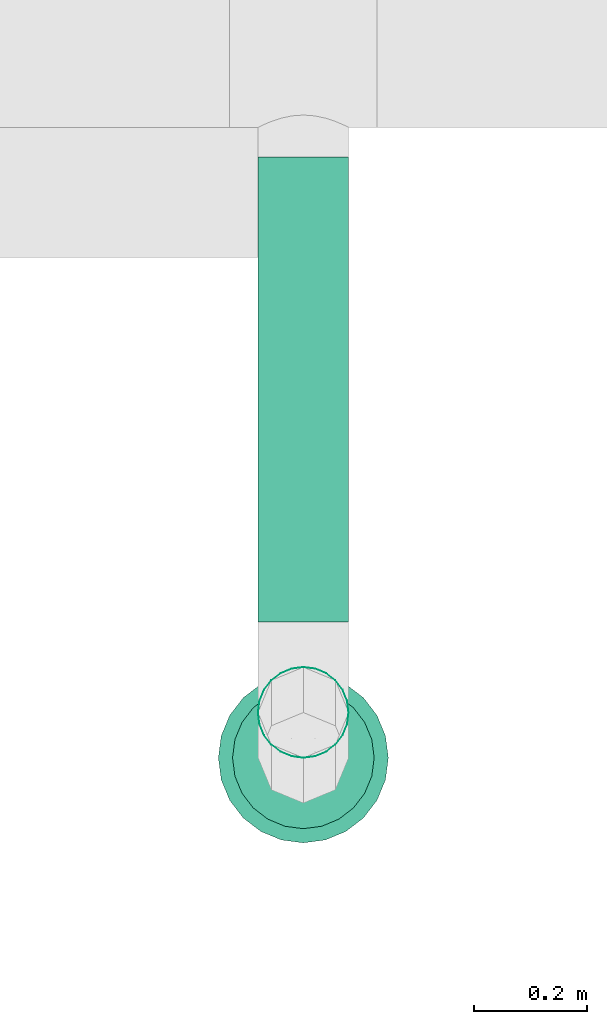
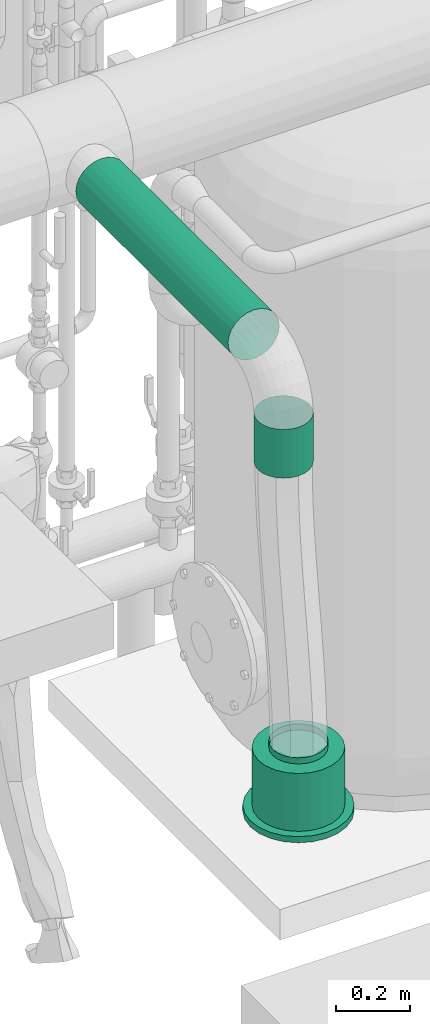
# One storey, part 75 of 374: 2 flow segments, 1 flow terminal.
"""IFC2X3 building model written with IfcOpenShell, lengths in metres."""

from ifc_helpers import new_model, si_unit, direction, origin, place, context, subcontext, project, spatial, open_shell, surface_model, source, transform, mapped, element, save


model = new_model("IFC2X3")

# Units and contexts
model_context = context("Model", 3, precision=1e-05, world=origin(), true_north=direction((-0.4480736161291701, 0.8939966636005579)))
body_context = subcontext(model_context, "Body", "Model", "MODEL_VIEW")
ifc_project = project(units=[si_unit("LENGTHUNIT", "METRE"), si_unit("AREAUNIT", "SQUARE_METRE"), si_unit("VOLUMEUNIT", "CUBIC_METRE"), si_unit("PLANEANGLEUNIT", "RADIAN"), si_unit("THERMODYNAMICTEMPERATUREUNIT", "KELVIN"), si_unit("MASSUNIT", "GRAM", prefix="KILO"), si_unit("TIMEUNIT", "SECOND")], contexts=[model_context])

# Site, building, storey
site_placement = place(None, origin())
site = spatial("IfcSite", under=ifc_project, at=site_placement, Name="Site 1", CompositionType="ELEMENT")
building_placement = place(site_placement, origin())
building = spatial("IfcBuilding", under=site, at=building_placement, Name="Undefined", CompositionType="ELEMENT")
storey_placement = place(building_placement, origin())
storey = spatial("IfcBuildingStorey", under=building, at=storey_placement, Name="Rez de chauss\x8ee", CompositionType="ELEMENT", Elevation=0.0)

# Flow terminal
shared_shape_1 = source(origin(), body_context, "Body", "SurfaceModel", [
    surface_model("IfcFaceBasedSurfaceModel", [(0.0, 0.0, 0.0), (0.03915785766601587, 0.0, 0.0), (0.03915785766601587, 0.020000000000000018, 0.0), (3.552713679e-15, 0.020000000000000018, 0.0), (0.07698144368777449, 0.0, -0.010134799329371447), (0.07698144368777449, 0.020000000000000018, -0.010134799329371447), (0.11089314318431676, 0.0, -0.02971372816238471), (0.11089314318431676, 0.020000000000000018, -0.02971372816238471), (0.13858192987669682, 0.0, -0.05740251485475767), (0.13858192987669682, 0.020000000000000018, -0.05740251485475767), (0.15816085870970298, 0.0, -0.09131421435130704), (0.15816085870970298, 0.020000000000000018, -0.09131421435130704), (0.16829565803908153, 0.0, -0.12913780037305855), (0.16829565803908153, 0.020000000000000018, -0.12913780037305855), (0.16829565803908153, 0.0, -0.16829565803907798), (0.16829565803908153, 0.020000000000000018, -0.16829565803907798), (0.15816085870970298, 0.0, -0.20611924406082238), (0.15816085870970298, 0.020000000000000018, -0.20611924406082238), (0.13858192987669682, 0.0, -0.24003094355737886), (0.13858192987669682, 0.020000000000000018, -0.24003094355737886), (0.11089314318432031, 0.0, -0.2677197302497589), (0.11089314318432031, 0.020000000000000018, -0.2677197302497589), (0.07698144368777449, 0.0, -0.2872986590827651), (0.07698144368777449, 0.020000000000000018, -0.2872986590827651), (0.039157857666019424, 0.0, -0.29743345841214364), (0.039157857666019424, 0.020000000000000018, -0.29743345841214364), (3.552713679e-15, 0.0, -0.29743345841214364), (3.552713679e-15, 0.020000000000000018, -0.29743345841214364), (-0.03782358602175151, 0.0, -0.2872986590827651), (-0.03782358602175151, 0.020000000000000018, -0.2872986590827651), (-0.07173528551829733, 0.0, -0.2677197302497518), (-0.07173528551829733, 0.020000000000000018, -0.2677197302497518), (-0.0994240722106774, 0.0, -0.24003094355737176), (-0.0994240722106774, 0.020000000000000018, -0.24003094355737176), (-0.11900300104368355, 0.0, -0.2061192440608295), (-0.11900300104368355, 0.020000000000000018, -0.2061192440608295), (-0.1291378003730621, 0.0, -0.16829565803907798), (-0.1291378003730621, 0.020000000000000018, -0.16829565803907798), (-0.1291378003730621, 0.0, -0.12913780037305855), (-0.1291378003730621, 0.020000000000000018, -0.12913780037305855), (-0.11900300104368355, 0.0, -0.09131421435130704), (-0.11900300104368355, 0.020000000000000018, -0.09131421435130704), (-0.0994240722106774, 0.0, -0.05740251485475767), (-0.0994240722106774, 0.020000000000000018, -0.05740251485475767), (-0.07173528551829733, 0.0, -0.029713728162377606), (-0.07173528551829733, 0.020000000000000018, -0.029713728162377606), (-0.03782358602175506, 0.0, -0.010134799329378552), (-0.03782358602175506, 0.020000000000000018, -0.010134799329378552), (0.019578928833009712, 0.0, -0.14871672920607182), (0.019578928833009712, 0.020000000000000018, -0.14871672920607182), (0.003263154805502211, 0.020000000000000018, -0.02478612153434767), (0.035894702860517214, 0.020000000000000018, -0.02478612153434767), (0.035894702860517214, 0.20999999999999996, -0.02478612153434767), (0.003263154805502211, 0.20999999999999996, -0.02478612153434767), (0.06741435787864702, 0.020000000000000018, -0.033231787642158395), (0.06741435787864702, 0.20999999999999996, -0.033231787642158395), (0.0956741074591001, 0.020000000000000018, -0.04954756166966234), (0.0956741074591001, 0.20999999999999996, -0.04954756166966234), (0.11874809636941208, 0.020000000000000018, -0.07262155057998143), (0.11874809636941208, 0.20999999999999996, -0.07262155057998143), (0.13506387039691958, 0.020000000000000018, -0.10088130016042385), (0.13506387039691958, 0.20999999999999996, -0.10088130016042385), (0.1435095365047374, 0.020000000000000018, -0.13240095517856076), (0.1435095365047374, 0.20999999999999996, -0.13240095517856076), (0.1435095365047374, 0.020000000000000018, -0.16503250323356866), (0.1435095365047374, 0.20999999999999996, -0.16503250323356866), (0.13506387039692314, 0.020000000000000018, -0.19655215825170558), (0.13506387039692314, 0.20999999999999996, -0.19655215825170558), (0.11874809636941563, 0.020000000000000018, -0.2248119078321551), (0.11874809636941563, 0.20999999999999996, -0.2248119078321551), (0.09567410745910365, 0.020000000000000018, -0.24788589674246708), (0.09567410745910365, 0.20999999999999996, -0.24788589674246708), (0.06741435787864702, 0.020000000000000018, -0.26420167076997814), (0.06741435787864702, 0.20999999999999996, -0.26420167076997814), (0.035894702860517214, 0.020000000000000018, -0.27264733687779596), (0.035894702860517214, 0.20999999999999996, -0.27264733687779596), (0.0032631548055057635, 0.020000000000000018, -0.27264733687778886), (0.0032631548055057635, 0.20999999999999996, -0.27264733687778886), (-0.028256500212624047, 0.020000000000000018, -0.26420167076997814), (-0.028256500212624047, 0.20999999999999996, -0.26420167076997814), (-0.05651624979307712, 0.020000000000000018, -0.2478858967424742), (-0.05651624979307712, 0.20999999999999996, -0.2478858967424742), (-0.07959023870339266, 0.020000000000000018, -0.2248119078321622), (-0.07959023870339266, 0.20999999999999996, -0.2248119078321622), (-0.09590601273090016, 0.020000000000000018, -0.19655215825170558), (-0.09590601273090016, 0.20999999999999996, -0.19655215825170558), (-0.10435167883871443, 0.020000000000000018, -0.16503250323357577), (-0.10435167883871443, 0.20999999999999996, -0.16503250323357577), (-0.10435167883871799, 0.020000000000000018, -0.13240095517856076), (-0.10435167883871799, 0.20999999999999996, -0.13240095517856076), (-0.09590601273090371, 0.020000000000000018, -0.10088130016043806), (-0.09590601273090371, 0.20999999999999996, -0.10088130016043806), (-0.07959023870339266, 0.020000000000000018, -0.07262155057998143), (-0.07959023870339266, 0.20999999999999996, -0.07262155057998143), (-0.056516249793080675, 0.020000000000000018, -0.04954756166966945), (-0.056516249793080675, 0.20999999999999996, -0.04954756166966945), (-0.028256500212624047, 0.020000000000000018, -0.033231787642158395), (-0.028256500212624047, 0.20999999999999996, -0.033231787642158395), (0.019578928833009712, 0.20999999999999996, -0.14871672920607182), (0.009136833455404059, 0.20999999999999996, -0.06940114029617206), (0.030021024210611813, 0.20999999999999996, -0.06940114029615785), (0.030021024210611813, 0.22999999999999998, -0.06940114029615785), (0.009136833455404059, 0.22999999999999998, -0.06940114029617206), (0.05019360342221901, 0.20999999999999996, -0.07480636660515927), (0.05019360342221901, 0.22999999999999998, -0.07480636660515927), (0.06827984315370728, 0.20999999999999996, -0.08524846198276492), (0.06827984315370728, 0.22999999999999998, -0.08524846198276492), (0.0830471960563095, 0.20999999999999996, -0.10001581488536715), (0.0830471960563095, 0.22999999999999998, -0.10001581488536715), (0.0934892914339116, 0.20999999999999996, -0.11810205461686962), (0.0934892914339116, 0.22999999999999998, -0.11810205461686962), (0.09889451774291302, 0.20999999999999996, -0.13827463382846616), (0.09889451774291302, 0.22999999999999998, -0.13827463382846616), (0.09889451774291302, 0.20999999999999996, -0.15915882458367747), (0.09889451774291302, 0.22999999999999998, -0.15915882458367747), (0.09348929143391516, 0.20999999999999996, -0.179331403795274), (0.09348929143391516, 0.22999999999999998, -0.179331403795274), (0.0830471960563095, 0.20999999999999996, -0.19741764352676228), (0.0830471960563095, 0.22999999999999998, -0.19741764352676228), (0.06827984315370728, 0.20999999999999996, -0.2121849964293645), (0.06827984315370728, 0.22999999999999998, -0.2121849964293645), (0.05019360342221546, 0.20999999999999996, -0.22262709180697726), (0.05019360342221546, 0.22999999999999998, -0.22262709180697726), (0.030021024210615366, 0.20999999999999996, -0.22803231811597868), (0.030021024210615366, 0.22999999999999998, -0.22803231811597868), (0.009136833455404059, 0.20999999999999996, -0.22803231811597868), (0.009136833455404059, 0.22999999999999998, -0.22803231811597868), (-0.011035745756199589, 0.20999999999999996, -0.22262709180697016), (-0.011035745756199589, 0.22999999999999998, -0.22262709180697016), (-0.0291219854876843, 0.20999999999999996, -0.2121849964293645), (-0.0291219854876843, 0.22999999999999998, -0.2121849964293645), (-0.043889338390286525, 0.20999999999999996, -0.19741764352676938), (-0.043889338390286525, 0.22999999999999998, -0.19741764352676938), (-0.05433143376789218, 0.20999999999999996, -0.17933140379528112), (-0.05433143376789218, 0.22999999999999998, -0.17933140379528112), (-0.05973666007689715, 0.20999999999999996, -0.15915882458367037), (-0.05973666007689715, 0.22999999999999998, -0.15915882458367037), (-0.0597366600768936, 0.20999999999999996, -0.13827463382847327), (-0.0597366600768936, 0.22999999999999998, -0.13827463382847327), (-0.05433143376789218, 0.20999999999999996, -0.11810205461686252), (-0.05433143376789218, 0.22999999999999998, -0.11810205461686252), (-0.043889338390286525, 0.20999999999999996, -0.10001581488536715), (-0.043889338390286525, 0.22999999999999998, -0.10001581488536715), (-0.02912198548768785, 0.20999999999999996, -0.08524846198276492), (-0.02912198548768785, 0.22999999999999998, -0.08524846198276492), (-0.011035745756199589, 0.20999999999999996, -0.07480636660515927), (-0.011035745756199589, 0.22999999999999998, -0.07480636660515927)], [open_shell([[[0, 1, 2, 3]], [[1, 4, 5, 2]], [[4, 6, 7, 5]], [[6, 8, 9, 7]], [[8, 10, 11, 9]], [[10, 12, 13, 11]], [[12, 14, 15, 13]], [[14, 16, 17, 15]], [[16, 18, 19, 17]], [[18, 20, 21, 19]], [[20, 22, 23, 21]], [[22, 24, 25, 23]], [[24, 26, 27, 25]], [[26, 28, 29, 27]], [[28, 30, 31, 29]], [[30, 32, 33, 31]], [[32, 34, 35, 33]], [[34, 36, 37, 35]], [[36, 38, 39, 37]], [[38, 40, 41, 39]], [[40, 42, 43, 41]], [[42, 44, 45, 43]], [[44, 46, 47, 45]], [[46, 0, 3, 47]], [[48, 1, 0]], [[48, 4, 1]], [[48, 6, 4]], [[48, 8, 6]], [[48, 10, 8]], [[48, 12, 10]], [[48, 14, 12]], [[48, 16, 14]], [[48, 18, 16]], [[48, 20, 18]], [[48, 22, 20]], [[48, 24, 22]], [[48, 26, 24]], [[48, 28, 26]], [[48, 30, 28]], [[48, 32, 30]], [[48, 34, 32]], [[48, 36, 34]], [[48, 38, 36]], [[48, 40, 38]], [[48, 42, 40]], [[48, 44, 42]], [[48, 46, 44]], [[48, 0, 46]], [[49, 47, 3]], [[49, 45, 47]], [[49, 43, 45]], [[49, 41, 43]], [[49, 39, 41]], [[49, 37, 39]], [[49, 35, 37]], [[49, 33, 35]], [[49, 31, 33]], [[49, 29, 31]], [[49, 27, 29]], [[49, 25, 27]], [[49, 23, 25]], [[49, 21, 23]], [[49, 19, 21]], [[49, 17, 19]], [[49, 15, 17]], [[49, 13, 15]], [[49, 11, 13]], [[49, 9, 11]], [[49, 7, 9]], [[49, 5, 7]], [[49, 2, 5]], [[49, 3, 2]], [[50, 51, 52, 53]], [[51, 54, 55, 52]], [[54, 56, 57, 55]], [[56, 58, 59, 57]], [[58, 60, 61, 59]], [[60, 62, 63, 61]], [[62, 64, 65, 63]], [[64, 66, 67, 65]], [[66, 68, 69, 67]], [[68, 70, 71, 69]], [[70, 72, 73, 71]], [[72, 74, 75, 73]], [[74, 76, 77, 75]], [[76, 78, 79, 77]], [[78, 80, 81, 79]], [[80, 82, 83, 81]], [[82, 84, 85, 83]], [[84, 86, 87, 85]], [[86, 88, 89, 87]], [[88, 90, 91, 89]], [[90, 92, 93, 91]], [[92, 94, 95, 93]], [[94, 96, 97, 95]], [[96, 50, 53, 97]], [[49, 51, 50]], [[49, 54, 51]], [[49, 56, 54]], [[49, 58, 56]], [[49, 60, 58]], [[49, 62, 60]], [[49, 64, 62]], [[49, 66, 64]], [[49, 68, 66]], [[49, 70, 68]], [[49, 72, 70]], [[49, 74, 72]], [[49, 76, 74]], [[49, 78, 76]], [[49, 80, 78]], [[49, 82, 80]], [[49, 84, 82]], [[49, 86, 84]], [[49, 88, 86]], [[49, 90, 88]], [[49, 92, 90]], [[49, 94, 92]], [[49, 96, 94]], [[49, 50, 96]], [[98, 97, 53]], [[98, 95, 97]], [[98, 93, 95]], [[98, 91, 93]], [[98, 89, 91]], [[98, 87, 89]], [[98, 85, 87]], [[98, 83, 85]], [[98, 81, 83]], [[98, 79, 81]], [[98, 77, 79]], [[98, 75, 77]], [[98, 73, 75]], [[98, 71, 73]], [[98, 69, 71]], [[98, 67, 69]], [[98, 65, 67]], [[98, 63, 65]], [[98, 61, 63]], [[98, 59, 61]], [[98, 57, 59]], [[98, 55, 57]], [[98, 52, 55]], [[98, 53, 52]], [[99, 100, 101, 102]], [[100, 103, 104, 101]], [[103, 105, 106, 104]], [[105, 107, 108, 106]], [[107, 109, 110, 108]], [[109, 111, 112, 110]], [[111, 113, 114, 112]], [[113, 115, 116, 114]], [[115, 117, 118, 116]], [[117, 119, 120, 118]], [[119, 121, 122, 120]], [[121, 123, 124, 122]], [[123, 125, 126, 124]], [[125, 127, 128, 126]], [[127, 129, 130, 128]], [[129, 131, 132, 130]], [[131, 133, 134, 132]], [[133, 135, 136, 134]], [[135, 137, 138, 136]], [[137, 139, 140, 138]], [[139, 141, 142, 140]], [[141, 143, 144, 142]], [[143, 145, 146, 144]], [[145, 99, 102, 146]]])]),
])
flow_terminal_placement = place(storey_placement, origin())
element("IfcFlowTerminal", 1, at=flow_terminal_placement, inside=storey, Name="Air diffuseur - bouche", ObjectType="Air diffuseur - bouche", context=body_context, shape_type="MappedRepresentation", body=[
    mapped(shared_shape_1, transform((52.29000370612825, 7.104998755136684, 2.38), x_axis=(-0.9914448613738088, -0.13052619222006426, 0.0), y_axis=(0.0, 0.0, 1.0), z_axis=(-0.13052619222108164, 0.9914448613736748, 0.0))),
])

# Flow segments
shared_shape_2 = source(origin(), body_context, "Body", "SurfaceModel", [
    surface_model("IfcFaceBasedSurfaceModel", [(0.0, 0.020884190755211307, 0.0), (0.0, 0.0, 0.0), (0.16000000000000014, 0.0, -4.4408921e-16), (0.16000000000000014, 0.0208841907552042, -4.4408921e-16), (0.0, -0.020172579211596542, -0.005405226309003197), (0.16000000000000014, -0.020172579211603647, -0.005405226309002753), (0.0, -0.03825881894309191, -0.015847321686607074), (0.16000000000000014, -0.03825881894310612, -0.015847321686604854), (0.0, -0.05302617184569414, -0.0306146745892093), (0.16000000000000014, -0.05302617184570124, -0.03061467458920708), (0.0, -0.06346826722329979, -0.04870091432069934), (0.16000000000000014, -0.0634682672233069, -0.04870091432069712), (0.0, -0.06887349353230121, -0.06887349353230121), (0.16000000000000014, -0.06887349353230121, -0.06887349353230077), (0.0, -0.06887349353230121, -0.08975768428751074), (0.16000000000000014, -0.06887349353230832, -0.08975768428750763), (0.0, -0.06346826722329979, -0.10993026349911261), (0.16000000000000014, -0.0634682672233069, -0.10993026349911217), (0.0, -0.05302617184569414, -0.12801650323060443), (0.16000000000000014, -0.05302617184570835, -0.1280165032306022), (0.0, -0.038258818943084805, -0.14278385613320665), (0.16000000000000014, -0.03825881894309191, -0.14278385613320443), (0.0, -0.020172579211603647, -0.15322595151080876), (0.16000000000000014, -0.020172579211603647, -0.1532259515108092), (0.0, 7.105427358e-15, -0.15863117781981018), (0.16000000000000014, -7.105427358e-15, -0.15863117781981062), (0.0, 0.020884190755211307, -0.15863117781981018), (0.16000000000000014, 0.0208841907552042, -0.15863117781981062), (0.0, 0.04105676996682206, -0.15322595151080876), (0.16000000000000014, 0.04105676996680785, -0.1532259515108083), (0.0, 0.05914300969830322, -0.1427838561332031), (0.16000000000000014, 0.05914300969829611, -0.14278385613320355), (0.0, 0.07391036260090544, -0.12801650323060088), (0.16000000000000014, 0.07391036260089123, -0.1280165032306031), (0.0, 0.0843524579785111, -0.10993026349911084), (0.16000000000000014, 0.08435245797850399, -0.10993026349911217), (0.0, 0.08975768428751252, -0.08975768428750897), (0.16000000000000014, 0.08975768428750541, -0.08975768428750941), (0.0, 0.08975768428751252, -0.06887349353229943), (0.16000000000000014, 0.08975768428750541, -0.06887349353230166), (0.0, 0.0843524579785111, -0.048700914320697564), (0.16000000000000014, 0.08435245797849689, -0.04870091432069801), (0.0, 0.07391036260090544, -0.030614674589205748), (0.16000000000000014, 0.07391036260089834, -0.03061467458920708), (0.0, 0.05914300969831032, -0.015847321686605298), (0.16000000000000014, 0.05914300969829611, -0.01584732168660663), (0.0, 0.04105676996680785, -0.005405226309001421), (0.16000000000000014, 0.04105676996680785, -0.005405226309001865)], [open_shell([[[0, 1, 2, 3]], [[1, 4, 5, 2]], [[4, 6, 7, 5]], [[6, 8, 9, 7]], [[8, 10, 11, 9]], [[10, 12, 13, 11]], [[12, 14, 15, 13]], [[14, 16, 17, 15]], [[16, 18, 19, 17]], [[18, 20, 21, 19]], [[20, 22, 23, 21]], [[22, 24, 25, 23]], [[24, 26, 27, 25]], [[26, 28, 29, 27]], [[28, 30, 31, 29]], [[30, 32, 33, 31]], [[32, 34, 35, 33]], [[34, 36, 37, 35]], [[36, 38, 39, 37]], [[38, 40, 41, 39]], [[40, 42, 43, 41]], [[42, 44, 45, 43]], [[44, 46, 47, 45]], [[46, 0, 3, 47]]])]),
])
flow_segment_1_placement = place(storey_placement, origin())
element("IfcFlowSegment", 2, at=flow_segment_1_placement, inside=storey, Name="Tube", ObjectType="Tube", context=body_context, shape_type="MappedRepresentation", body=[
    mapped(shared_shape_2, transform((52.269298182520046, 7.112272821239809, 3.4800000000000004), x_axis=(0.0, 0.0, 1.0), y_axis=(0.9914448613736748, 0.13052619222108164, 0.0), z_axis=(-0.13052619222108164, 0.9914448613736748, 0.0))),
])
shared_shape_3 = source(origin(), body_context, "Body", "SurfaceModel", [
    surface_model("IfcFaceBasedSurfaceModel", [(0.0, 0.020884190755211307, 0.0), (0.0, 0.0, 0.0), (0.8200010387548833, 0.0, 4.4408921e-16), (0.8200010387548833, 0.020884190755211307, -4.4408921e-16), (0.0, -0.020172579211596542, -0.005405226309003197), (0.8200010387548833, -0.020172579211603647, -0.005405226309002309), (0.0, -0.03825881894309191, -0.015847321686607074), (0.8200010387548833, -0.038258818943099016, -0.01584732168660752), (0.0, -0.05302617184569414, -0.0306146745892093), (0.8200010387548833, -0.05302617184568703, -0.0306146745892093), (0.0, -0.06346826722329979, -0.04870091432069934), (0.8200010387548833, -0.06346826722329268, -0.04870091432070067), (0.0, -0.06887349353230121, -0.06887349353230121), (0.8200010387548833, -0.06887349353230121, -0.06887349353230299), (0.0, -0.06887349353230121, -0.08975768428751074), (0.8200010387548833, -0.0688734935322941, -0.08975768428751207), (0.0, -0.06346826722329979, -0.10993026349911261), (0.8200010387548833, -0.06346826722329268, -0.10993026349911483), (0.0, -0.05302617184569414, -0.12801650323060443), (0.8200010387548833, -0.05302617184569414, -0.12801650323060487), (0.0, -0.038258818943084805, -0.14278385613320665), (0.8200010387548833, -0.038258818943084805, -0.14278385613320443), (0.0, -0.020172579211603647, -0.15322595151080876), (0.8200010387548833, -0.020172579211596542, -0.15322595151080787), (0.0, 7.105427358e-15, -0.15863117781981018), (0.8200010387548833, 7.105427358e-15, -0.15863117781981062), (0.0, 0.020884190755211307, -0.15863117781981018), (0.8200010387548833, 0.020884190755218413, -0.1586311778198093), (0.0, 0.04105676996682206, -0.15322595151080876), (0.8200010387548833, 0.04105676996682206, -0.15322595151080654), (0.0, 0.05914300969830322, -0.1427838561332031), (0.8200010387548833, 0.05914300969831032, -0.14278385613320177), (0.0, 0.07391036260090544, -0.12801650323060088), (0.8200010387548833, 0.07391036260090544, -0.12801650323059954), (0.0, 0.0843524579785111, -0.10993026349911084), (0.8200010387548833, 0.0843524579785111, -0.10993026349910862), (0.0, 0.08975768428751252, -0.08975768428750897), (0.8200010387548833, 0.08975768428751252, -0.08975768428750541), (0.0, 0.08975768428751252, -0.06887349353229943), (0.8200010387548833, 0.08975768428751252, -0.06887349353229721), (0.0, 0.0843524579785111, -0.048700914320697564), (0.8200010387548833, 0.0843524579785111, -0.04870091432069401), (0.0, 0.07391036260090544, -0.030614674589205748), (0.8200010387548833, 0.07391036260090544, -0.030614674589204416), (0.0, 0.05914300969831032, -0.015847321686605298), (0.8200010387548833, 0.05914300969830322, -0.01584732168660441), (0.0, 0.04105676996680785, -0.005405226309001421), (0.8200010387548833, 0.041056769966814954, -0.005405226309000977)], [open_shell([[[0, 1, 2, 3]], [[1, 4, 5, 2]], [[4, 6, 7, 5]], [[6, 8, 9, 7]], [[8, 10, 11, 9]], [[10, 12, 13, 11]], [[12, 14, 15, 13]], [[14, 16, 17, 15]], [[16, 18, 19, 17]], [[18, 20, 21, 19]], [[20, 22, 23, 21]], [[22, 24, 25, 23]], [[24, 26, 27, 25]], [[26, 28, 29, 27]], [[28, 30, 31, 29]], [[30, 32, 33, 31]], [[32, 34, 35, 33]], [[34, 36, 37, 35]], [[36, 38, 39, 37]], [[38, 40, 41, 39]], [[40, 42, 43, 41]], [[42, 44, 45, 43]], [[44, 46, 47, 45]], [[46, 0, 3, 47]]])]),
])
flow_segment_2_placement = place(storey_placement, origin())
element("IfcFlowSegment", 3, at=flow_segment_2_placement, inside=storey, Name="Tube", ObjectType="Tube", context=body_context, shape_type="MappedRepresentation", body=[
    mapped(shared_shape_3, transform((52.269298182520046, 8.014999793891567, 3.877274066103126), x_axis=(0.0, -1.0, 0.0), y_axis=(0.9914448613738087, 0.0, 0.13052619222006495), z_axis=(-0.13052619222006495, 0.0, 0.9914448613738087))),
])

save(model, "model.ifc")
